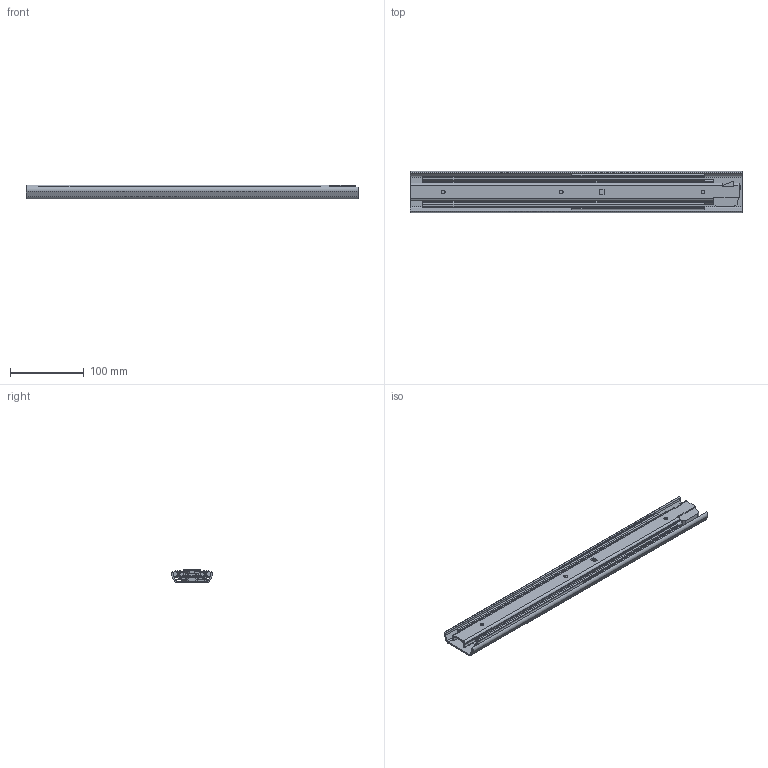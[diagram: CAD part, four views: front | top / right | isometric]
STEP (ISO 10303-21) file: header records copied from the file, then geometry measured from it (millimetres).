
FILE_DESCRIPTION( ( 'STEP AP203' ), '1' );
FILE_NAME( 'C:/Temp/Ganter_Step_05_03_2020/data/3_8/gn1422/Telescopic slide GN 1422-450-B-2-ZB (0).stp', '2020-03-12T15:26:04', ( 'License CC BY-ND 4.0' ), ( 'CADENAS' ), ' ', 'PARTsolutions', ' ' );
FILE_SCHEMA( ( 'CONFIG_CONTROL_DESIGN' ) );
Length unit declared in the file: millimetre
Products named in the file (4): Telescopic slide GN 1422-450-B-2-ZB (0); _Telescopic slide GN 1422-450-B-2-ZB (0)-1; _Telescopic slide GN 1422-450-B-2-ZB (0)-2; _Telescopic slide GN 1422-450-B-2-ZB (0)-3
Assembly tree (3 placements, depth 2):
  Telescopic slide GN 1422-450-B-2-ZB (0)
    _Telescopic slide GN 1422-450-B-2-ZB (0)-1
    _Telescopic slide GN 1422-450-B-2-ZB (0)-2
    _Telescopic slide GN 1422-450-B-2-ZB (0)-3
Bounding box: 450 x 55.78 x 18.5 mm (x, y, z)
Volume: 181127.1 mm3; surface area: 190544.9 mm2
Topology: 3 solids, 3 shells, 320 faces, 941 edges, 618 vertices
Faces by surface type: plane 190, cylinder 123, cone 7
Full cylindrical faces by diameter (mm): 5 x3, 6.5 x4, 11 x3
Entity records: 10840 total; most frequent: CARTESIAN_POINT 1980, ORIENTED_EDGE 1842, DIRECTION 1823, EDGE_CURVE 921, LINE 643, VECTOR 643, VERTEX_POINT 615, AXIS2_PLACEMENT_3D 590
